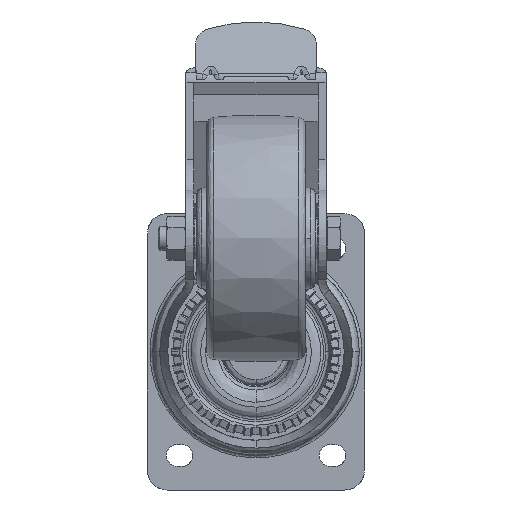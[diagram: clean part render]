
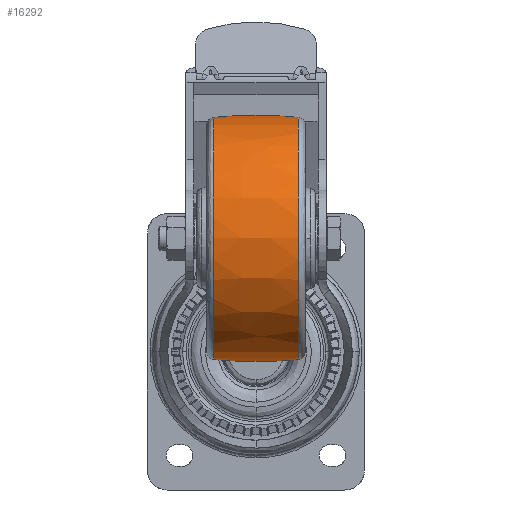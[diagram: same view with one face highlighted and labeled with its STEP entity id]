
A CAD part, front view. The second image highlights one B-rep face of the part: STEP entity #16292.
In plain terms, the highlighted free-form (B-spline) face has degree [3, 3] with [4, 4] control points.
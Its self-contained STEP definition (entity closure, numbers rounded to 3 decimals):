
#3523 = CARTESIAN_POINT ( 'NONE',  ( 21.429, -107.9, -3.849 ) ) ;
#3929 = CARTESIAN_POINT ( 'NONE',  ( 21.429, -230.597, -3.849 ) ) ;
#4042 = VERTEX_POINT ( 'NONE', #15715 ) ;
#8813 = CARTESIAN_POINT ( 'NONE',  ( -21.429, -230.597, 118.849 ) ) ;
#9035 = CARTESIAN_POINT ( 'NONE',  ( 21.429, -107.9, 118.849 ) ) ;
#12356 = EDGE_CURVE ( 'NONE', #56644, #45617, #50398, .T. ) ;
#13966 = CARTESIAN_POINT ( 'NONE',  ( -7.17, -107.9, -5.385 ) ) ;
#15715 = CARTESIAN_POINT ( 'NONE',  ( 21.429, -107.9, 118.849 ) ) ;
#15798 = CARTESIAN_POINT ( 'NONE',  ( -21.429, -107.9, 57.5 ) ) ;
#16292 = ADVANCED_FACE ( 'NONE', ( #27938 ), #37669, .T. ) ;
#17839 = DIRECTION ( 'NONE',  ( 0., -1., 0. ) ) ;
#19051 = CARTESIAN_POINT ( 'NONE',  ( -7.17, -233.67, 120.385 ) ) ;
#20902 = DIRECTION ( 'NONE',  ( 0., 0., 1. ) ) ;
#22042 = DIRECTION ( 'NONE',  ( -1., 0., 0. ) ) ;
#23024 = DIRECTION ( 'NONE',  ( 0., 1., 0. ) ) ;
#24188 = CARTESIAN_POINT ( 'NONE',  ( 7.17, -107.9, -5.385 ) ) ;
#25491 = AXIS2_PLACEMENT_3D ( 'NONE', #52395, #22042, #57515 ) ;
#27938 = FACE_OUTER_BOUND ( 'NONE', #29532, .T. ) ;
#28694 = AXIS2_PLACEMENT_3D ( 'NONE', #53399, #23024, #58493 ) ;
#28993 = CARTESIAN_POINT ( 'NONE',  ( -21.429, -107.9, -3.849 ) ) ;
#29206 = CARTESIAN_POINT ( 'NONE',  ( 7.17, -233.67, 120.385 ) ) ;
#29532 = EDGE_LOOP ( 'NONE', ( #42876, #33041, #65576, #32698 ) ) ;
#30311 = CARTESIAN_POINT ( 'NONE',  ( -21.429, -107.9, -3.849 ) ) ;
#31308 = CIRCLE ( 'NONE', #25491, 61.349 ) ;
#32698 = ORIENTED_EDGE ( 'NONE', *, *, #63489, .F. ) ;
#33041 = ORIENTED_EDGE ( 'NONE', *, *, #37267, .T. ) ;
#34328 = CARTESIAN_POINT ( 'NONE',  ( 21.429, -107.9, -3.849 ) ) ;
#36539 = CIRCLE ( 'NONE', #28694, 200. ) ;
#37267 = EDGE_CURVE ( 'NONE', #45617, #40492, #59963, .T. ) ;
#37669 =( BOUNDED_SURFACE ( )  B_SPLINE_SURFACE ( 3, 3, ( 
 ( #28993, #54315, #8813, #44254 ),
 ( #13966, #49419, #19051, #54530 ),
 ( #24188, #59649, #29206, #64742 ),
 ( #34328, #3929, #39373, #9035 ) ),
 .UNSPECIFIED., .F., .F., .T. ) 
 B_SPLINE_SURFACE_WITH_KNOTS ( ( 4, 4 ),
 ( 4, 4 ),
 ( 0., 1. ),
 ( 0., 1. ),
 .UNSPECIFIED. ) 
 GEOMETRIC_REPRESENTATION_ITEM ( )  RATIONAL_B_SPLINE_SURFACE ( (
 ( 1., 0.333, 0.333, 1.),
 ( 0.996, 0.332, 0.332, 0.996),
 ( 0.996, 0.332, 0.332, 0.996),
 ( 1., 0.333, 0.333, 1.) ) ) 
 REPRESENTATION_ITEM ( '' )  SURFACE ( )  );
#38574 = AXIS2_PLACEMENT_3D ( 'NONE', #15798, #51282, #20902 ) ;
#39373 = CARTESIAN_POINT ( 'NONE',  ( 21.429, -230.597, 118.849 ) ) ;
#40492 = VERTEX_POINT ( 'NONE', #3523 ) ;
#42876 = ORIENTED_EDGE ( 'NONE', *, *, #12356, .T. ) ;
#44254 = CARTESIAN_POINT ( 'NONE',  ( -21.429, -107.9, 118.849 ) ) ;
#45617 = VERTEX_POINT ( 'NONE', #30311 ) ;
#48175 = CARTESIAN_POINT ( 'NONE',  ( 0., -107.9, 195. ) ) ;
#49419 = CARTESIAN_POINT ( 'NONE',  ( -7.17, -233.67, -5.385 ) ) ;
#50398 = CIRCLE ( 'NONE', #38574, 61.349 ) ;
#51282 = DIRECTION ( 'NONE',  ( 1., 0., 0. ) ) ;
#52395 = CARTESIAN_POINT ( 'NONE',  ( 21.429, -107.9, 57.5 ) ) ;
#53318 = DIRECTION ( 'NONE',  ( 0., 0., -1. ) ) ;
#53399 = CARTESIAN_POINT ( 'NONE',  ( 0., -107.9, -80. ) ) ;
#54315 = CARTESIAN_POINT ( 'NONE',  ( -21.429, -230.597, -3.849 ) ) ;
#54453 = EDGE_CURVE ( 'NONE', #40492, #4042, #31308, .T. ) ;
#54530 = CARTESIAN_POINT ( 'NONE',  ( -7.17, -107.9, 120.385 ) ) ;
#56644 = VERTEX_POINT ( 'NONE', #57469 ) ;
#56733 = AXIS2_PLACEMENT_3D ( 'NONE', #48175, #17839, #53318 ) ;
#57469 = CARTESIAN_POINT ( 'NONE',  ( -21.429, -107.9, 118.849 ) ) ;
#57515 = DIRECTION ( 'NONE',  ( 0., 0., 1. ) ) ;
#58493 = DIRECTION ( 'NONE',  ( 0., 0., 1. ) ) ;
#59649 = CARTESIAN_POINT ( 'NONE',  ( 7.17, -233.67, -5.385 ) ) ;
#59963 = CIRCLE ( 'NONE', #56733, 200. ) ;
#63489 = EDGE_CURVE ( 'NONE', #56644, #4042, #36539, .T. ) ;
#64742 = CARTESIAN_POINT ( 'NONE',  ( 7.17, -107.9, 120.385 ) ) ;
#65576 = ORIENTED_EDGE ( 'NONE', *, *, #54453, .T. ) ;
